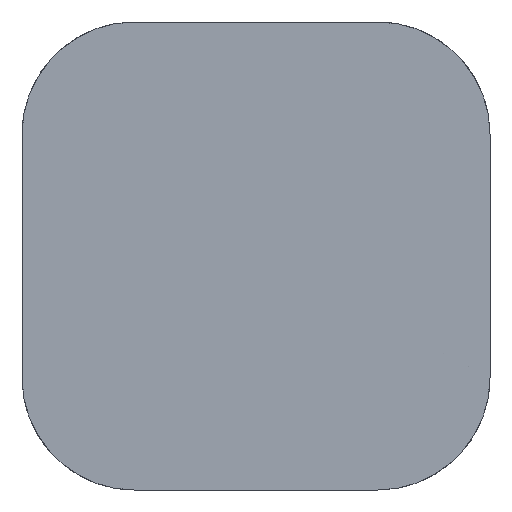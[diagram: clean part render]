
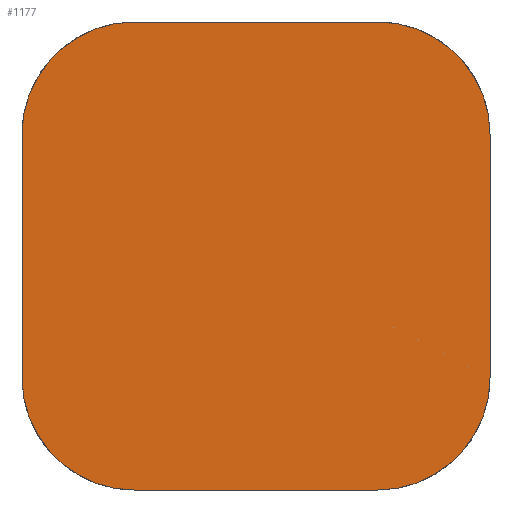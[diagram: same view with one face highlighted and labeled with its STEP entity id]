
A CAD part, front view. The second image highlights one B-rep face of the part: STEP entity #1177.
In plain terms, the highlighted planar face has unit normal (0, -1, 0) as drawn and (0, 0, -1) by its records, which use the part's own axes.
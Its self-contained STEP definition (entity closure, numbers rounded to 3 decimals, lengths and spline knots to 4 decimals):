
#2=CARTESIAN_POINT('',(-0.65,0.65,-0.75));
#3=DIRECTION('',(0.,0.,-1.));
#4=DIRECTION('',(-1.,0.,0.));
#5=AXIS2_PLACEMENT_3D('',#2,#3,#4);
#7=DIRECTION('',(0.,-1.,0.));
#8=VECTOR('',#7,1.3);
#9=CARTESIAN_POINT('',(-1.25,0.65,-0.75));
#10=LINE('',#9,#8);
#11=CARTESIAN_POINT('',(-0.65,-0.65,-0.75));
#12=DIRECTION('',(0.,0.,-1.));
#13=DIRECTION('',(0.,-1.,0.));
#14=AXIS2_PLACEMENT_3D('',#11,#12,#13);
#16=DIRECTION('',(1.,0.,0.));
#17=VECTOR('',#16,1.3);
#18=CARTESIAN_POINT('',(-0.65,-1.25,-0.75));
#19=LINE('',#18,#17);
#20=CARTESIAN_POINT('',(0.65,-0.65,-0.75));
#21=DIRECTION('',(0.,0.,-1.));
#22=DIRECTION('',(1.,0.,0.));
#23=AXIS2_PLACEMENT_3D('',#20,#21,#22);
#25=DIRECTION('',(0.,1.,0.));
#26=VECTOR('',#25,1.3);
#27=CARTESIAN_POINT('',(1.25,-0.65,-0.75));
#28=LINE('',#27,#26);
#29=CARTESIAN_POINT('',(0.65,0.65,-0.75));
#30=DIRECTION('',(0.,0.,-1.));
#31=DIRECTION('',(0.,1.,0.));
#32=AXIS2_PLACEMENT_3D('',#29,#30,#31);
#34=DIRECTION('',(-1.,0.,0.));
#35=VECTOR('',#34,1.3);
#36=CARTESIAN_POINT('',(0.65,1.25,-0.75));
#37=LINE('',#36,#35);
#1102=CARTESIAN_POINT('',(-1.25,0.65,-0.75));
#1103=CARTESIAN_POINT('',(-0.65,1.25,-0.75));
#1104=VERTEX_POINT('',#1102);
#1105=VERTEX_POINT('',#1103);
#1106=CARTESIAN_POINT('',(0.65,1.25,-0.75));
#1107=CARTESIAN_POINT('',(1.25,0.65,-0.75));
#1108=VERTEX_POINT('',#1106);
#1109=VERTEX_POINT('',#1107);
#1110=CARTESIAN_POINT('',(-1.25,-0.65,-0.75));
#1111=VERTEX_POINT('',#1110);
#1112=CARTESIAN_POINT('',(1.25,-0.65,-0.75));
#1113=VERTEX_POINT('',#1112);
#1114=CARTESIAN_POINT('',(-0.65,-1.25,-0.75));
#1115=VERTEX_POINT('',#1114);
#1116=CARTESIAN_POINT('',(0.65,-1.25,-0.75));
#1117=VERTEX_POINT('',#1116);
#1154=CARTESIAN_POINT('',(0.,0.,-0.75));
#1155=DIRECTION('',(0.,0.,1.));
#1156=DIRECTION('',(1.,0.,0.));
#1157=AXIS2_PLACEMENT_3D('',#1154,#1155,#1156);
#1158=PLANE('',#1157);
#1160=ORIENTED_EDGE('',*,*,#1159,.F.);
#1162=ORIENTED_EDGE('',*,*,#1161,.T.);
#1164=ORIENTED_EDGE('',*,*,#1163,.F.);
#1166=ORIENTED_EDGE('',*,*,#1165,.T.);
#1168=ORIENTED_EDGE('',*,*,#1167,.F.);
#1170=ORIENTED_EDGE('',*,*,#1169,.T.);
#1172=ORIENTED_EDGE('',*,*,#1171,.F.);
#1174=ORIENTED_EDGE('',*,*,#1173,.T.);
#1175=EDGE_LOOP('',(#1160,#1162,#1164,#1166,#1168,#1170,#1172,#1174));
#1176=FACE_OUTER_BOUND('',#1175,.F.);
#1177=ADVANCED_FACE('',(#1176),#1158,.F.);
#6=CIRCLE('',#5,0.6);
#15=CIRCLE('',#14,0.6);
#24=CIRCLE('',#23,0.6);
#33=CIRCLE('',#32,0.6);
#1159=EDGE_CURVE('',#1104,#1105,#6,.T.);
#1161=EDGE_CURVE('',#1104,#1111,#10,.T.);
#1163=EDGE_CURVE('',#1115,#1111,#15,.T.);
#1165=EDGE_CURVE('',#1115,#1117,#19,.T.);
#1167=EDGE_CURVE('',#1113,#1117,#24,.T.);
#1169=EDGE_CURVE('',#1113,#1109,#28,.T.);
#1171=EDGE_CURVE('',#1108,#1109,#33,.T.);
#1173=EDGE_CURVE('',#1108,#1105,#37,.T.);
